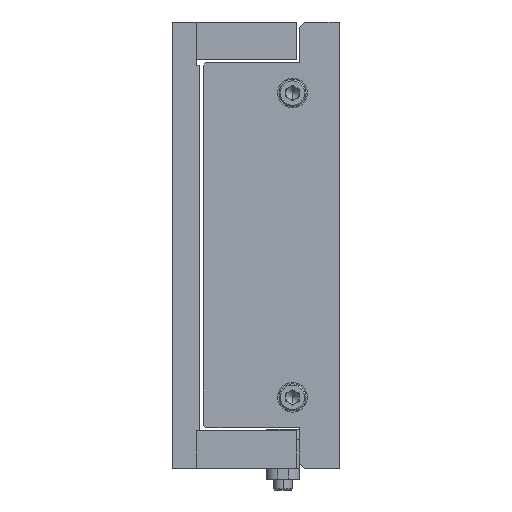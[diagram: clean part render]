
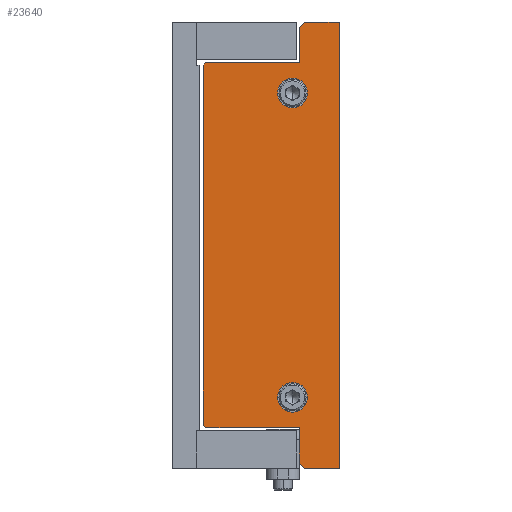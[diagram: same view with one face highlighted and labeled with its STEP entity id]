
A CAD part, left-side view. The second image highlights one B-rep face of the part: STEP entity #23640.
In plain terms, the highlighted planar face has unit normal (-1, 0, 0).
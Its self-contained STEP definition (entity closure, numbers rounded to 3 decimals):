
#607 = VECTOR ( 'NONE', #48072, 1000. ) ;
#716 = VECTOR ( 'NONE', #48852, 1000. ) ;
#852 = EDGE_CURVE ( 'NONE', #18942, #4097, #20454, .T. ) ;
#1086 = ORIENTED_EDGE ( 'NONE', *, *, #52659, .F. ) ;
#1295 = CARTESIAN_POINT ( 'NONE',  ( -190., 17.5, 56.25 ) ) ;
#1717 = EDGE_CURVE ( 'NONE', #16630, #31219, #53055, .T. ) ;
#2617 = VERTEX_POINT ( 'NONE', #11135 ) ;
#2776 = DIRECTION ( 'NONE',  ( 0., 0.707, -0.707 ) ) ;
#2950 = VERTEX_POINT ( 'NONE', #15126 ) ;
#3056 = CARTESIAN_POINT ( 'NONE',  ( -190., 17.5, 50.75 ) ) ;
#3112 = LINE ( 'NONE', #20748, #11628 ) ;
#3355 = CARTESIAN_POINT ( 'NONE',  ( -190., 15., -67.5 ) ) ;
#4020 = VECTOR ( 'NONE', #48065, 1000. ) ;
#4097 = VERTEX_POINT ( 'NONE', #40847 ) ;
#4192 = EDGE_LOOP ( 'NONE', ( #17860, #21135, #26279, #46688, #47636, #50308, #16496, #26426, #16660, #21884, #52805, #6850 ) ) ;
#4430 = EDGE_CURVE ( 'NONE', #40034, #29556, #36230, .T. ) ;
#4680 = EDGE_CURVE ( 'NONE', #31219, #33203, #30270, .T. ) ;
#4840 = VECTOR ( 'NONE', #44847, 1000. ) ;
#5518 = CARTESIAN_POINT ( 'NONE',  ( -190., 17.5, -56.25 ) ) ;
#6622 = DIRECTION ( 'NONE',  ( 0., 0., -1. ) ) ;
#6850 = ORIENTED_EDGE ( 'NONE', *, *, #7847, .T. ) ;
#7219 = CARTESIAN_POINT ( 'NONE',  ( -190., 13.05, 82.5 ) ) ;
#7847 = EDGE_CURVE ( 'NONE', #4097, #51199, #28906, .T. ) ;
#8344 = LINE ( 'NONE', #7219, #43772 ) ;
#9539 = CARTESIAN_POINT ( 'NONE',  ( -190., 15., 80.55 ) ) ;
#9688 = CARTESIAN_POINT ( 'NONE',  ( -190., 15., -67.5 ) ) ;
#9733 = CARTESIAN_POINT ( 'NONE',  ( -190., 49.5, -67.5 ) ) ;
#11135 = CARTESIAN_POINT ( 'NONE',  ( -190., 17.5, -61.75 ) ) ;
#11628 = VECTOR ( 'NONE', #46237, 1000. ) ;
#11829 = CARTESIAN_POINT ( 'NONE',  ( -190., 0.25, -82.5 ) ) ;
#12107 = DIRECTION ( 'NONE',  ( 0., 0., 1. ) ) ;
#12272 = VERTEX_POINT ( 'NONE', #3056 ) ;
#13541 = CARTESIAN_POINT ( 'NONE',  ( -190., 15., 67.5 ) ) ;
#13903 = EDGE_CURVE ( 'NONE', #2950, #16630, #36788, .T. ) ;
#13934 = DIRECTION ( 'NONE',  ( 0., 0.707, -0.707 ) ) ;
#14334 = CARTESIAN_POINT ( 'NONE',  ( -190., 13.05, -82.5 ) ) ;
#14604 = EDGE_CURVE ( 'NONE', #29556, #2950, #21019, .T. ) ;
#15126 = CARTESIAN_POINT ( 'NONE',  ( -190., 49.5, 67.5 ) ) ;
#15872 = AXIS2_PLACEMENT_3D ( 'NONE', #39412, #26713, #35355 ) ;
#16018 = CIRCLE ( 'NONE', #20618, 5.5 ) ;
#16407 = CARTESIAN_POINT ( 'NONE',  ( -190., 0.25, 82.5 ) ) ;
#16496 = ORIENTED_EDGE ( 'NONE', *, *, #1717, .T. ) ;
#16630 = VERTEX_POINT ( 'NONE', #23318 ) ;
#16660 = ORIENTED_EDGE ( 'NONE', *, *, #23205, .T. ) ;
#16792 = AXIS2_PLACEMENT_3D ( 'NONE', #1295, #26005, #22522 ) ;
#17119 = CARTESIAN_POINT ( 'NONE',  ( -190., 15., -80.55 ) ) ;
#17860 = ORIENTED_EDGE ( 'NONE', *, *, #22622, .T. ) ;
#18759 = VERTEX_POINT ( 'NONE', #16407 ) ;
#18790 = AXIS2_PLACEMENT_3D ( 'NONE', #31711, #32070, #6622 ) ;
#18942 = VERTEX_POINT ( 'NONE', #17119 ) ;
#19075 = CARTESIAN_POINT ( 'NONE',  ( -190., 50.5, 66.5 ) ) ;
#19090 = CARTESIAN_POINT ( 'NONE',  ( -190., 50.5, -66.5 ) ) ;
#19158 = VECTOR ( 'NONE', #48055, 1000. ) ;
#19165 = CIRCLE ( 'NONE', #16792, 5.5 ) ;
#19313 = LINE ( 'NONE', #23950, #4840 ) ;
#19916 = CARTESIAN_POINT ( 'NONE',  ( -190., 15., 80.55 ) ) ;
#20358 = DIRECTION ( 'NONE',  ( -1., 0., 0. ) ) ;
#20454 = LINE ( 'NONE', #14334, #4020 ) ;
#20618 = AXIS2_PLACEMENT_3D ( 'NONE', #5518, #34154, #25696 ) ;
#20731 = CARTESIAN_POINT ( 'NONE',  ( -190., 15., 67.5 ) ) ;
#20748 = CARTESIAN_POINT ( 'NONE',  ( -190., 15., -80.55 ) ) ;
#21019 = LINE ( 'NONE', #44599, #716 ) ;
#21109 = EDGE_CURVE ( 'NONE', #2617, #51777, #51074, .T. ) ;
#21135 = ORIENTED_EDGE ( 'NONE', *, *, #33378, .T. ) ;
#21510 = DIRECTION ( 'NONE',  ( 0., -1., 0. ) ) ;
#21884 = ORIENTED_EDGE ( 'NONE', *, *, #23265, .T. ) ;
#22048 = CIRCLE ( 'NONE', #15872, 5.5 ) ;
#22522 = DIRECTION ( 'NONE',  ( 0., 0., 1. ) ) ;
#22622 = EDGE_CURVE ( 'NONE', #51199, #18759, #19313, .T. ) ;
#23205 = EDGE_CURVE ( 'NONE', #33203, #43087, #45074, .T. ) ;
#23265 = EDGE_CURVE ( 'NONE', #43087, #18942, #3112, .T. ) ;
#23318 = CARTESIAN_POINT ( 'NONE',  ( -190., 50.5, 66.5 ) ) ;
#23640 = ADVANCED_FACE ( 'NONE', ( #42443, #29945, #41161 ), #36317, .F. ) ;
#23950 = CARTESIAN_POINT ( 'NONE',  ( -190., 0.25, 82.5 ) ) ;
#24394 = EDGE_LOOP ( 'NONE', ( #30053, #48094 ) ) ;
#24881 = EDGE_CURVE ( 'NONE', #51777, #2617, #16018, .T. ) ;
#25417 = EDGE_CURVE ( 'NONE', #12272, #48418, #19165, .T. ) ;
#25696 = DIRECTION ( 'NONE',  ( 0., 0., 1. ) ) ;
#26005 = DIRECTION ( 'NONE',  ( -1., 0., 0. ) ) ;
#26279 = ORIENTED_EDGE ( 'NONE', *, *, #29980, .T. ) ;
#26426 = ORIENTED_EDGE ( 'NONE', *, *, #4680, .T. ) ;
#26713 = DIRECTION ( 'NONE',  ( -1., 0., 0. ) ) ;
#28643 = VERTEX_POINT ( 'NONE', #35816 ) ;
#28906 = LINE ( 'NONE', #11829, #50546 ) ;
#29556 = VERTEX_POINT ( 'NONE', #13541 ) ;
#29945 = FACE_BOUND ( 'NONE', #37588, .T. ) ;
#29980 = EDGE_CURVE ( 'NONE', #28643, #40034, #32512, .T. ) ;
#30053 = ORIENTED_EDGE ( 'NONE', *, *, #24881, .F. ) ;
#30270 = LINE ( 'NONE', #9733, #19158 ) ;
#31109 = CARTESIAN_POINT ( 'NONE',  ( -190., 17.5, -50.75 ) ) ;
#31219 = VERTEX_POINT ( 'NONE', #47778 ) ;
#31405 = CARTESIAN_POINT ( 'NONE',  ( -190., 49.5, -67.5 ) ) ;
#31711 = CARTESIAN_POINT ( 'NONE',  ( -190., 0., 0. ) ) ;
#32070 = DIRECTION ( 'NONE',  ( 1., 0., 0. ) ) ;
#32512 = LINE ( 'NONE', #9539, #52901 ) ;
#33203 = VERTEX_POINT ( 'NONE', #31405 ) ;
#33378 = EDGE_CURVE ( 'NONE', #18759, #28643, #8344, .T. ) ;
#34154 = DIRECTION ( 'NONE',  ( -1., 0., 0. ) ) ;
#34947 = VECTOR ( 'NONE', #50093, 1000. ) ;
#35355 = DIRECTION ( 'NONE',  ( 0., 0., 1. ) ) ;
#35816 = CARTESIAN_POINT ( 'NONE',  ( -190., 13.05, 82.5 ) ) ;
#36230 = LINE ( 'NONE', #20731, #34947 ) ;
#36317 = PLANE ( 'NONE',  #18790 ) ;
#36788 = LINE ( 'NONE', #19075, #44024 ) ;
#37588 = EDGE_LOOP ( 'NONE', ( #1086, #49341 ) ) ;
#38217 = CARTESIAN_POINT ( 'NONE',  ( -190., 17.5, 61.75 ) ) ;
#39412 = CARTESIAN_POINT ( 'NONE',  ( -190., 17.5, 56.25 ) ) ;
#40034 = VERTEX_POINT ( 'NONE', #19916 ) ;
#40847 = CARTESIAN_POINT ( 'NONE',  ( -190., 13.05, -82.5 ) ) ;
#41161 = FACE_OUTER_BOUND ( 'NONE', #4192, .T. ) ;
#42443 = FACE_BOUND ( 'NONE', #24394, .T. ) ;
#43087 = VERTEX_POINT ( 'NONE', #9688 ) ;
#43772 = VECTOR ( 'NONE', #53420, 1000. ) ;
#44024 = VECTOR ( 'NONE', #2776, 1000. ) ;
#44599 = CARTESIAN_POINT ( 'NONE',  ( -190., 49.5, 67.5 ) ) ;
#44847 = DIRECTION ( 'NONE',  ( 0., 0., 1. ) ) ;
#45074 = LINE ( 'NONE', #3355, #54258 ) ;
#45489 = CARTESIAN_POINT ( 'NONE',  ( -190., 17.5, -56.25 ) ) ;
#46237 = DIRECTION ( 'NONE',  ( 0., 0., -1. ) ) ;
#46688 = ORIENTED_EDGE ( 'NONE', *, *, #4430, .T. ) ;
#47636 = ORIENTED_EDGE ( 'NONE', *, *, #14604, .T. ) ;
#47778 = CARTESIAN_POINT ( 'NONE',  ( -190., 50.5, -66.5 ) ) ;
#48055 = DIRECTION ( 'NONE',  ( 0., -0.707, -0.707 ) ) ;
#48065 = DIRECTION ( 'NONE',  ( 0., -0.707, -0.707 ) ) ;
#48072 = DIRECTION ( 'NONE',  ( 0., 0., -1. ) ) ;
#48094 = ORIENTED_EDGE ( 'NONE', *, *, #21109, .F. ) ;
#48418 = VERTEX_POINT ( 'NONE', #38217 ) ;
#48852 = DIRECTION ( 'NONE',  ( 0., 1., 0. ) ) ;
#49341 = ORIENTED_EDGE ( 'NONE', *, *, #25417, .F. ) ;
#49394 = DIRECTION ( 'NONE',  ( 0., -1., 0. ) ) ;
#49968 = AXIS2_PLACEMENT_3D ( 'NONE', #45489, #20358, #12107 ) ;
#50093 = DIRECTION ( 'NONE',  ( 0., 0., -1. ) ) ;
#50134 = CARTESIAN_POINT ( 'NONE',  ( -190., 0.25, -82.5 ) ) ;
#50308 = ORIENTED_EDGE ( 'NONE', *, *, #13903, .T. ) ;
#50546 = VECTOR ( 'NONE', #21510, 1000. ) ;
#51074 = CIRCLE ( 'NONE', #49968, 5.5 ) ;
#51199 = VERTEX_POINT ( 'NONE', #50134 ) ;
#51777 = VERTEX_POINT ( 'NONE', #31109 ) ;
#52659 = EDGE_CURVE ( 'NONE', #48418, #12272, #22048, .T. ) ;
#52805 = ORIENTED_EDGE ( 'NONE', *, *, #852, .T. ) ;
#52901 = VECTOR ( 'NONE', #13934, 1000. ) ;
#53055 = LINE ( 'NONE', #19090, #607 ) ;
#53420 = DIRECTION ( 'NONE',  ( 0., 1., 0. ) ) ;
#54258 = VECTOR ( 'NONE', #49394, 1000. ) ;
